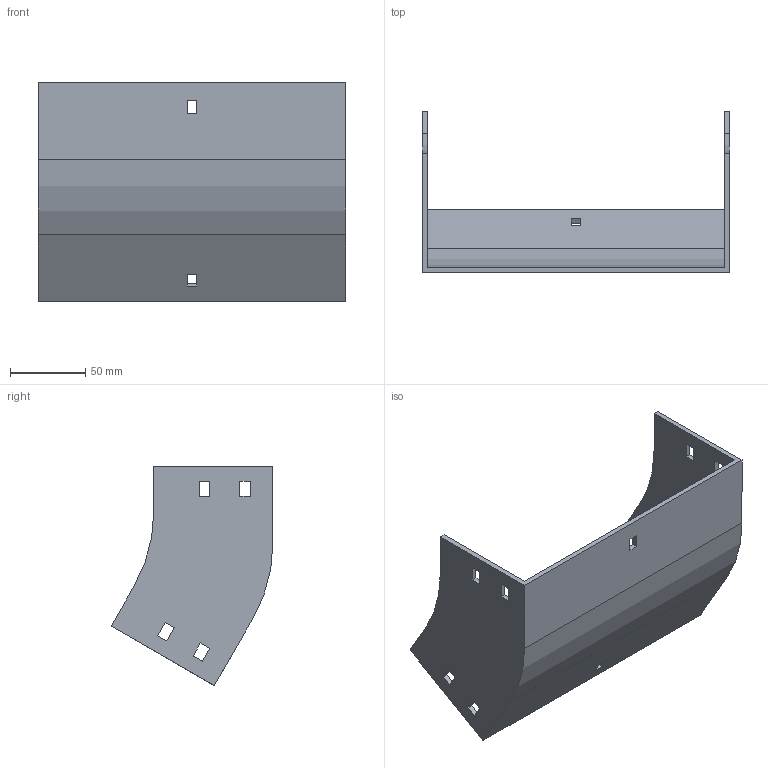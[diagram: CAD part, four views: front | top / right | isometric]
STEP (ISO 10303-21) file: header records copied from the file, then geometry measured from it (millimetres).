
FILE_DESCRIPTION (( 'STEP AP214' ), '1' );
FILE_NAME ('32F1C200.step', '2025-02-21T12:58:35', ( '' ), ( '' ), 'SwSTEP 2.0', 'SolidWorks 2023', '' );
FILE_SCHEMA (( 'AUTOMOTIVE_DESIGN' ));
Length unit declared in the file: millimetre
Products named in the file (1): 32F1C200
Bounding box: 204 x 107.4 x 145.48 mm (x, y, z)
Volume: 178182.6 mm3; surface area: 106265.5 mm2
Topology: 1 solids, 1 shells, 58 faces, 168 edges, 112 vertices
Faces by surface type: plane 54, cylinder 4
Entity records: 1943 total; most frequent: CARTESIAN_POINT 339, ORIENTED_EDGE 336, DIRECTION 294, EDGE_CURVE 168, LINE 160, VECTOR 160, VERTEX_POINT 112, EDGE_LOOP 78
